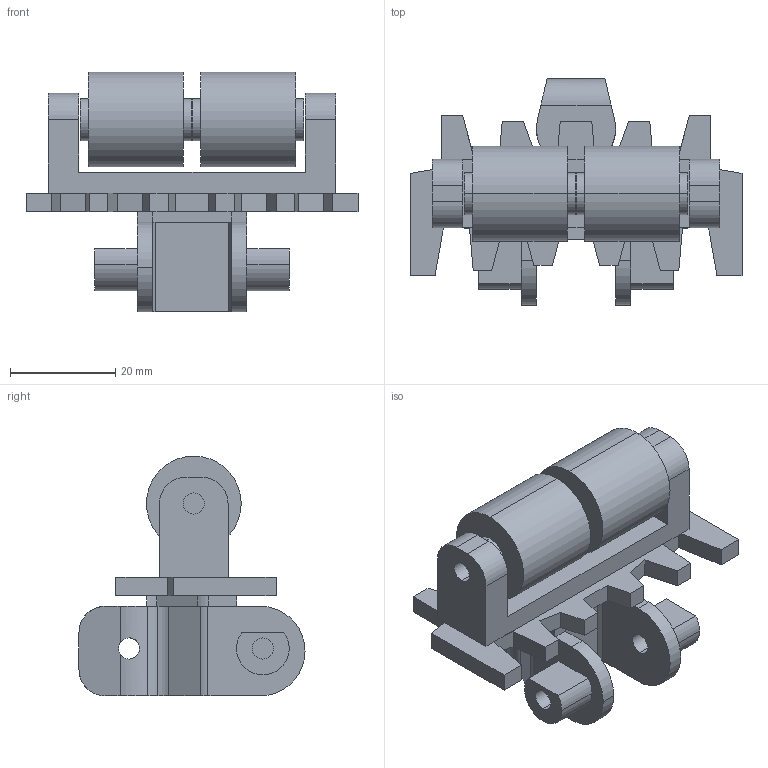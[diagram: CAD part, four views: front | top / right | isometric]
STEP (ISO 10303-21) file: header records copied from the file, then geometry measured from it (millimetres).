
FILE_DESCRIPTION (( 'STEP AP214' ), '1' );
FILE_NAME ('FSRC-5.STEP', '2011-07-06T07:58:49', ( '.' ), ( '' ), 'SwSTEP 2.0', 'SolidWorks 2010', '' );
FILE_SCHEMA (( 'AUTOMOTIVE_DESIGN' ));
Length unit declared in the file: millimetre
Products named in the file (1): FSRC-5
Bounding box: 63 x 42.9 x 45.5 mm (x, y, z)
Volume: 27361.2 mm3; surface area: 13528.9 mm2
Topology: 7 solids, 7 shells, 161 faces, 418 edges, 274 vertices
Faces by surface type: plane 107, cylinder 54
Entity records: 5508 total; most frequent: CARTESIAN_POINT 964, ORIENTED_EDGE 836, DIRECTION 828, EDGE_CURVE 418, LINE 308, VECTOR 308, VERTEX_POINT 274, AXIS2_PLACEMENT_3D 260
